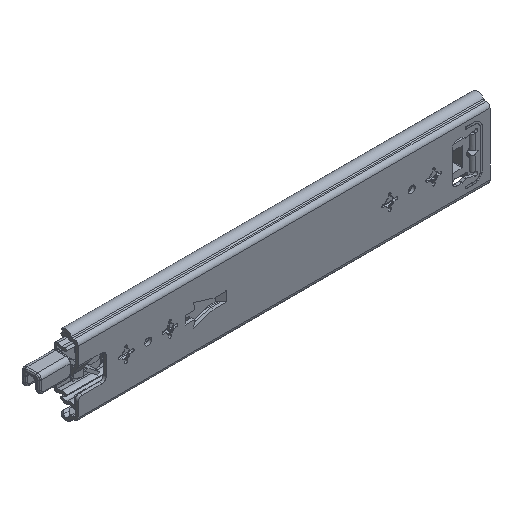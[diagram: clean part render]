
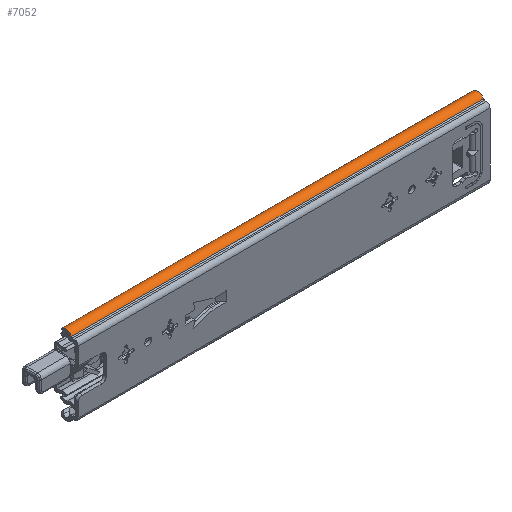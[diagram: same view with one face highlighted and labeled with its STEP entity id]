
A CAD part, isometric view. The second image highlights one B-rep face of the part: STEP entity #7052.
In plain terms, the highlighted cylindrical face has radius 4.8 mm (diameter 9.6 mm), a partial arc.
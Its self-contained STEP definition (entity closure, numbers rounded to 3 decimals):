
#71=CARTESIAN_POINT('',(0.,9.,24.05));
#72=DIRECTION('',(1.,0.,0.));
#73=DIRECTION('',(0.,0.547,0.837));
#74=AXIS2_PLACEMENT_3D('',#71,#72,#73);
#2517=CARTESIAN_POINT('',(300.,11.624,28.069));
#2518=CARTESIAN_POINT('',(300.,11.777,27.969));
#2519=CARTESIAN_POINT('',(299.968,12.066,27.756));
#2520=CARTESIAN_POINT('',(299.874,12.321,27.52));
#2521=CARTESIAN_POINT('',(299.81,12.44,27.398));
#2523=DIRECTION('',(1.,0.,0.));
#2524=VECTOR('',#2523,300.);
#2525=CARTESIAN_POINT('',(0.,4.762,26.304));
#2526=LINE('',#2525,#2524);
#2527=CARTESIAN_POINT('',(0.19,12.44,27.398));
#2528=CARTESIAN_POINT('',(0.126,12.322,27.519));
#2529=CARTESIAN_POINT('',(0.032,12.067,27.755));
#2530=CARTESIAN_POINT('',(0.,11.778,27.969));
#2531=CARTESIAN_POINT('',(0.,11.624,28.069));
#2533=DIRECTION('',(1.,0.,0.));
#2534=VECTOR('',#2533,299.62);
#2535=CARTESIAN_POINT('',(0.19,12.44,27.398));
#2536=LINE('',#2535,#2534);
#2822=CARTESIAN_POINT('',(300.,9.,24.05));
#2823=DIRECTION('',(1.,0.,0.));
#2824=DIRECTION('',(0.,0.547,0.837));
#2825=AXIS2_PLACEMENT_3D('',#2822,#2823,#2824);
#3105=CARTESIAN_POINT('',(0.,4.762,26.304));
#3106=CARTESIAN_POINT('',(300.,4.762,26.304));
#3107=VERTEX_POINT('',#3105);
#3108=VERTEX_POINT('',#3106);
#3694=VERTEX_POINT('',#2517);
#3695=VERTEX_POINT('',#2521);
#3727=CARTESIAN_POINT('',(0.19,12.44,27.398));
#3728=VERTEX_POINT('',#3727);
#3729=VERTEX_POINT('',#2531);
#7035=CARTESIAN_POINT('',(0.,9.,24.05));
#7036=DIRECTION('',(1.,0.,0.));
#7037=DIRECTION('',(0.,-1.,0.));
#7038=AXIS2_PLACEMENT_3D('',#7035,#7036,#7037);
#7039=CYLINDRICAL_SURFACE('',#7038,4.8);
#7041=ORIENTED_EDGE('',*,*,#7040,.F.);
#7043=ORIENTED_EDGE('',*,*,#7042,.T.);
#7044=ORIENTED_EDGE('',*,*,#7028,.F.);
#7045=ORIENTED_EDGE('',*,*,#3989,.F.);
#7047=ORIENTED_EDGE('',*,*,#7046,.F.);
#7049=ORIENTED_EDGE('',*,*,#7048,.T.);
#7050=EDGE_LOOP('',(#7041,#7043,#7044,#7045,#7047,#7049));
#7051=FACE_OUTER_BOUND('',#7050,.F.);
#75=CIRCLE('',#74,4.8);
#2522=B_SPLINE_CURVE_WITH_KNOTS('',3,(#2517,#2518,#2519,#2520,#2521),
.UNSPECIFIED.,.F.,.F.,(4,1,4),(0.,0.5,1.),.UNSPECIFIED.);
#2532=B_SPLINE_CURVE_WITH_KNOTS('',3,(#2527,#2528,#2529,#2530,#2531),
.UNSPECIFIED.,.F.,.F.,(4,1,4),(0.,0.5,1.),.UNSPECIFIED.);
#2826=CIRCLE('',#2825,4.8);
#3989=EDGE_CURVE('',#3729,#3107,#75,.T.);
#7028=EDGE_CURVE('',#3107,#3108,#2526,.T.);
#7040=EDGE_CURVE('',#3694,#3695,#2522,.T.);
#7042=EDGE_CURVE('',#3694,#3108,#2826,.T.);
#7046=EDGE_CURVE('',#3728,#3729,#2532,.T.);
#7048=EDGE_CURVE('',#3728,#3695,#2536,.T.);
#7052=ADVANCED_FACE('',(#7051),#7039,.T.);
